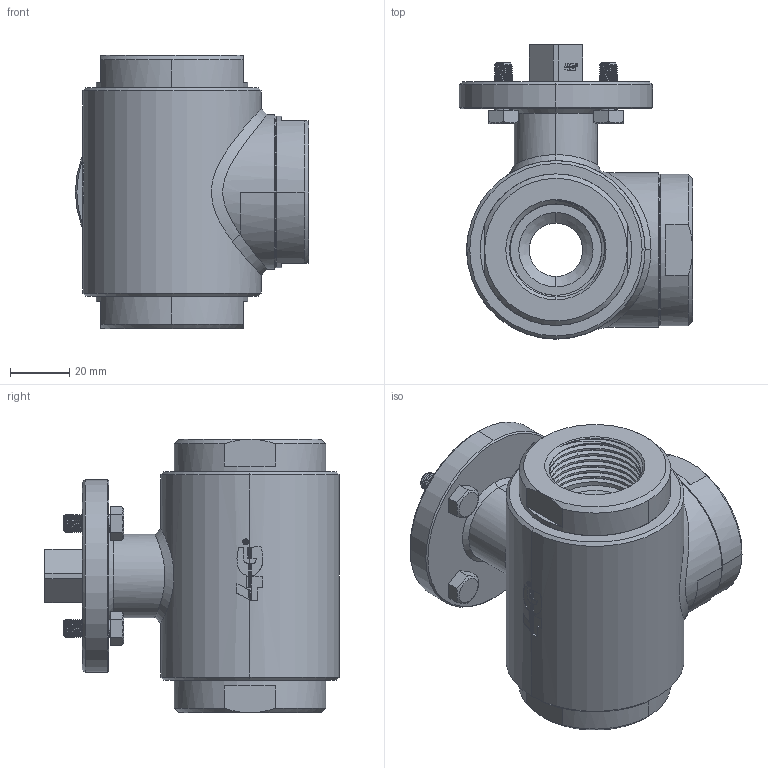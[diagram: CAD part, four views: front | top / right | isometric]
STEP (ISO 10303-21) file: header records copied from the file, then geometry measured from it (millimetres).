
FILE_DESCRIPTION((''),'2;1');
FILE_NAME('3030016241F_SW0001','2024-11-13T15:19:03',('tecnico2'),('CDM Tecnoconsulting'),'CREO PARAMETRIC BY PTC INC, 2024063','CREO PARAMETRIC BY PTC INC, 2024063','');
FILE_SCHEMA(('CONFIG_CONTROL_DESIGN','SHAPE_APPEARANCE_LAYERS_GROUPS'));
Products named in the file (1): 3030016241F_SW0001
Bounding box: 78.5 x 99 x 92 mm (x, y, z)
Volume: 232076.9 mm3; surface area: 74248.1 mm2
Topology: 5 solids, 5 shells, 1117 faces, 2985 edges, 1914 vertices
Faces by surface type: cylinder 363, plane 315, cone 148, bspline 146, extrusion 111, torus 32, sphere 2
Entity records: 107119 total; most frequent: CARTESIAN_POINT 71713, ORIENTED_EDGE 5950, DIRECTION 4221, PRESENTATION_STYLE_ASSIGNMENT 3091, STYLED_ITEM 2980, CURVE_STYLE 2975, EDGE_CURVE 2975, VERTEX_POINT 1914
